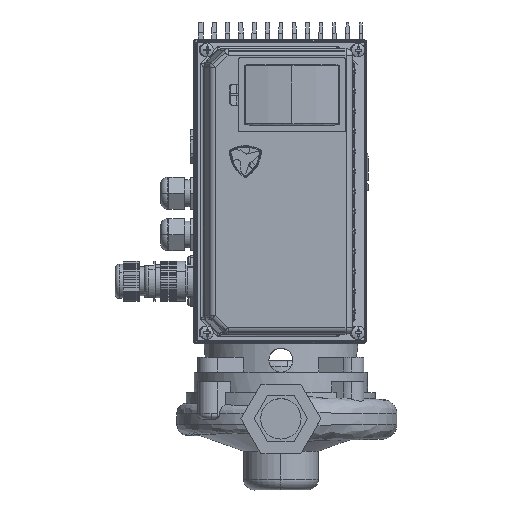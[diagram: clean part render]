
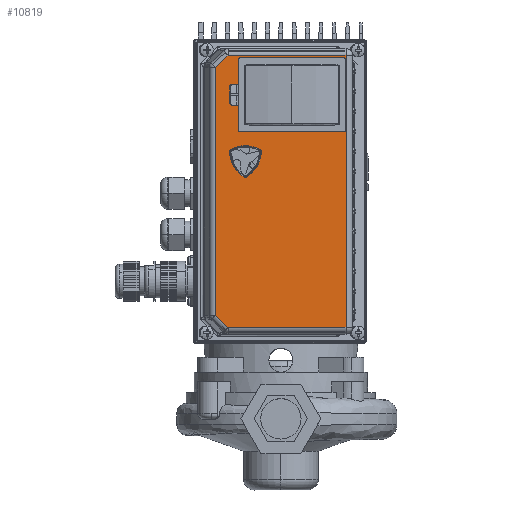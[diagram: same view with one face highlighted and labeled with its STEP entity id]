
A CAD part, top view. The second image highlights one B-rep face of the part: STEP entity #10819.
In plain terms, the highlighted planar face has unit normal (0, 0, 1) as drawn and (0, 0.276, -0.961) by its records, which use the part's own axes.
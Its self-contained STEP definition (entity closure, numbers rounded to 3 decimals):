
#10819=ADVANCED_FACE('',(#21695,#21696),#21697,.F.);
#21695=FACE_BOUND('',#38741,.T.);
#21696=FACE_OUTER_BOUND('',#38742,.T.);
#21697=PLANE('',#38743);
#38741=EDGE_LOOP('',(#61017,#61018,#61019,#61020));
#38742=EDGE_LOOP('',(#61021,#61022,#61023,#61024,#61025,#61026));
#38743=AXIS2_PLACEMENT_3D('',#61027,#61028,#61029);
#61017=ORIENTED_EDGE('',*,*,#71027,.T.);
#61018=ORIENTED_EDGE('',*,*,#71028,.T.);
#61019=ORIENTED_EDGE('',*,*,#71029,.T.);
#61020=ORIENTED_EDGE('',*,*,#71030,.T.);
#61021=ORIENTED_EDGE('',*,*,#70960,.F.);
#61022=ORIENTED_EDGE('',*,*,#70996,.F.);
#61023=ORIENTED_EDGE('',*,*,#71031,.T.);
#61024=ORIENTED_EDGE('',*,*,#70919,.F.);
#61025=ORIENTED_EDGE('',*,*,#71032,.F.);
#61026=ORIENTED_EDGE('',*,*,#71033,.F.);
#61027=CARTESIAN_POINT('',(0.,10.301,61.695));
#61028=DIRECTION('',(0.0,-0.276,0.961));
#61029=DIRECTION('',(-0.0,0.961,0.276));
#70919=EDGE_CURVE('',#79939,#79941,#79942,.T.);
#70960=EDGE_CURVE('',#80008,#80010,#80011,.T.);
#70996=EDGE_CURVE('',#80058,#80008,#80060,.T.);
#71027=EDGE_CURVE('',#80096,#80097,#80098,.T.);
#71028=EDGE_CURVE('',#80097,#80099,#80100,.T.);
#71029=EDGE_CURVE('',#80099,#80101,#80102,.T.);
#71030=EDGE_CURVE('',#80101,#80096,#80103,.T.);
#71031=EDGE_CURVE('',#80058,#79941,#80104,.T.);
#71032=EDGE_CURVE('',#80105,#79939,#80106,.T.);
#71033=EDGE_CURVE('',#80010,#80105,#80107,.T.);
#79939=VERTEX_POINT('',#93869);
#79941=VERTEX_POINT('',#93871);
#79942=LINE('',#93872,#93873);
#80008=VERTEX_POINT('',#93954);
#80010=VERTEX_POINT('',#93956);
#80011=LINE('',#93957,#93958);
#80058=VERTEX_POINT('',#94012);
#80060=LINE('',#94014,#94015);
#80096=VERTEX_POINT('',#94056);
#80097=VERTEX_POINT('',#94057);
#80098=LINE('',#94058,#94059);
#80099=VERTEX_POINT('',#94060);
#80100=LINE('',#94061,#94062);
#80101=VERTEX_POINT('',#94063);
#80102=LINE('',#94064,#94065);
#80103=LINE('',#94066,#94067);
#80104=LINE('',#94068,#94069);
#80105=VERTEX_POINT('',#94070);
#80106=LINE('',#94071,#94072);
#80107=LINE('',#94073,#94074);
#93869=CARTESIAN_POINT('',(-102.0,48.307,72.593));
#93871=CARTESIAN_POINT('',(-102.0,-36.776,48.195));
#93872=CARTESIAN_POINT('',(-102.0,-27.524,50.848));
#93873=VECTOR('',#103147,1.0);
#93954=CARTESIAN_POINT('',(102.0,48.307,72.593));
#93956=CARTESIAN_POINT('',(92.929,57.378,75.194));
#93957=CARTESIAN_POINT('',(83.993,66.314,77.756));
#93958=VECTOR('',#103214,1.);
#94012=CARTESIAN_POINT('',(102.0,-36.776,48.195));
#94014=CARTESIAN_POINT('',(102.0,-27.524,50.848));
#94015=VECTOR('',#103279,1.);
#94056=CARTESIAN_POINT('',(-95.,-31.008,49.849));
#94057=CARTESIAN_POINT('',(-50.,-31.008,49.849));
#94058=CARTESIAN_POINT('',(-36.25,-31.008,49.849));
#94059=VECTOR('',#103327,1.0);
#94060=CARTESIAN_POINT('',(-50.,35.319,68.868));
#94061=CARTESIAN_POINT('',(-50.,6.228,60.527));
#94062=VECTOR('',#103328,1.);
#94063=CARTESIAN_POINT('',(-95.,35.319,68.868));
#94064=CARTESIAN_POINT('',(-36.25,35.319,68.868));
#94065=VECTOR('',#103329,1.0);
#94066=CARTESIAN_POINT('',(-95.,6.228,60.527));
#94067=VECTOR('',#103330,1.);
#94068=CARTESIAN_POINT('',(0.,-36.776,48.195));
#94069=VECTOR('',#103331,1.0);
#94070=CARTESIAN_POINT('',(-92.929,57.378,75.194));
#94071=CARTESIAN_POINT('',(-83.993,66.314,77.756));
#94072=VECTOR('',#103332,1.0);
#94073=CARTESIAN_POINT('',(0.,57.378,75.194));
#94074=VECTOR('',#103333,1.0);
#103147=DIRECTION('',(0.,-0.961,-0.276));
#103214=DIRECTION('',(-0.693,0.693,0.199));
#103279=DIRECTION('',(0.,0.961,0.276));
#103327=DIRECTION('',(1.0,0.,0.));
#103328=DIRECTION('',(-0.0,0.961,0.276));
#103329=DIRECTION('',(-1.0,0.,0.));
#103330=DIRECTION('',(-0.0,-0.961,-0.276));
#103331=DIRECTION('',(-1.0,0.0,0.0));
#103332=DIRECTION('',(-0.693,-0.693,-0.199));
#103333=DIRECTION('',(-1.0,0.0,0.0));
